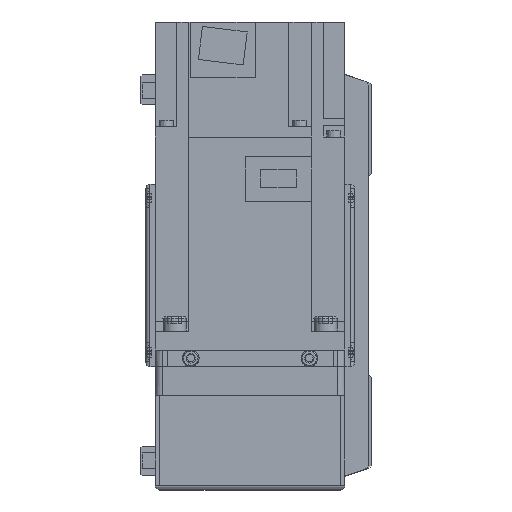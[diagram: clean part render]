
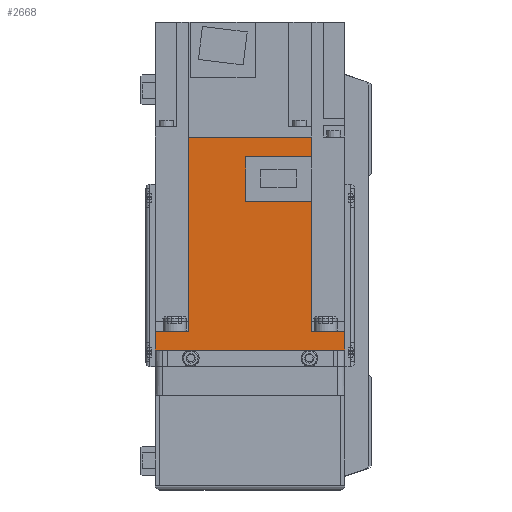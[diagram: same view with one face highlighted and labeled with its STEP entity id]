
A CAD part, left-side view. The second image highlights one B-rep face of the part: STEP entity #2668.
In plain terms, the highlighted planar face has unit normal (-1, 0, 0) as drawn and (1, 0, 0) by its records, which use the part's own axes.
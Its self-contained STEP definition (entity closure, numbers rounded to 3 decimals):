
#2668 = ADVANCED_FACE( '', ( #5926 ), #5927, .F. );
#5926 = FACE_OUTER_BOUND( '', #9730, .T. );
#5927 = PLANE( '', #9731 );
#9730 = EDGE_LOOP( '', ( #17199, #17200, #17201, #17202, #17203, #17204, #17205, #17206, #17207, #17208, #17209, #17210 ) );
#9731 = AXIS2_PLACEMENT_3D( '', #17211, #17212, #17213 );
#17199 = ORIENTED_EDGE( '', *, *, #23057, .F. );
#17200 = ORIENTED_EDGE( '', *, *, #23907, .F. );
#17201 = ORIENTED_EDGE( '', *, *, #22555, .F. );
#17202 = ORIENTED_EDGE( '', *, *, #21693, .T. );
#17203 = ORIENTED_EDGE( '', *, *, #23269, .F. );
#17204 = ORIENTED_EDGE( '', *, *, #24165, .T. );
#17205 = ORIENTED_EDGE( '', *, *, #24166, .T. );
#17206 = ORIENTED_EDGE( '', *, *, #23701, .F. );
#17207 = ORIENTED_EDGE( '', *, *, #23589, .F. );
#17208 = ORIENTED_EDGE( '', *, *, #23909, .F. );
#17209 = ORIENTED_EDGE( '', *, *, #23220, .F. );
#17210 = ORIENTED_EDGE( '', *, *, #24167, .F. );
#17211 = CARTESIAN_POINT( '', ( 40., 89.8, 40. ) );
#17212 = DIRECTION( '', ( -1., 0., 0. ) );
#17213 = DIRECTION( '', ( 0., 0., 1. ) );
#21693 = EDGE_CURVE( '', #25935, #25933, #25936, .T. );
#22555 = EDGE_CURVE( '', #25935, #27391, #27394, .T. );
#23057 = EDGE_CURVE( '', #28170, #28172, #28173, .T. );
#23220 = EDGE_CURVE( '', #28432, #28433, #28434, .T. );
#23269 = EDGE_CURVE( '', #28508, #25933, #28510, .T. );
#23589 = EDGE_CURVE( '', #28975, #28976, #28977, .T. );
#23701 = EDGE_CURVE( '', #28976, #29125, #29126, .T. );
#23907 = EDGE_CURVE( '', #27391, #28170, #29413, .T. );
#23909 = EDGE_CURVE( '', #28433, #28975, #29415, .T. );
#24165 = EDGE_CURVE( '', #28508, #29766, #29767, .T. );
#24166 = EDGE_CURVE( '', #29766, #29125, #29768, .T. );
#24167 = EDGE_CURVE( '', #28172, #28432, #29769, .T. );
#25933 = VERTEX_POINT( '', #32179 );
#25935 = VERTEX_POINT( '', #32182 );
#25936 = LINE( '', #32183, #32184 );
#27391 = VERTEX_POINT( '', #34363 );
#27394 = LINE( '', #34368, #34369 );
#28170 = VERTEX_POINT( '', #35486 );
#28172 = VERTEX_POINT( '', #35489 );
#28173 = LINE( '', #35490, #35491 );
#28432 = VERTEX_POINT( '', #35910 );
#28433 = VERTEX_POINT( '', #35911 );
#28434 = LINE( '', #35912, #35913 );
#28508 = VERTEX_POINT( '', #36021 );
#28510 = LINE( '', #36024, #36025 );
#28975 = VERTEX_POINT( '', #36823 );
#28976 = VERTEX_POINT( '', #36824 );
#28977 = LINE( '', #36825, #36826 );
#29125 = VERTEX_POINT( '', #37032 );
#29126 = LINE( '', #37033, #37034 );
#29413 = LINE( '', #37640, #37641 );
#29415 = LINE( '', #37644, #37645 );
#29766 = VERTEX_POINT( '', #38190 );
#29767 = LINE( '', #38191, #38192 );
#29768 = LINE( '', #38193, #38194 );
#29769 = LINE( '', #38195, #38196 );
#32179 = CARTESIAN_POINT( '', ( 40., 8., 25.95 ) );
#32182 = CARTESIAN_POINT( '', ( 40., 89.8, 25.95 ) );
#32183 = CARTESIAN_POINT( '', ( 40., 158., 25.95 ) );
#32184 = VECTOR( '', #40567, 1000. );
#34363 = CARTESIAN_POINT( '', ( 40., 89.8, -25.95 ) );
#34368 = CARTESIAN_POINT( '', ( 40., 89.8, 40. ) );
#34369 = VECTOR( '', #41696, 1000. );
#35486 = CARTESIAN_POINT( '', ( 40., 81.4, -25.95 ) );
#35489 = CARTESIAN_POINT( '', ( 40., 81.4, 1.8 ) );
#35490 = CARTESIAN_POINT( '', ( 40., 81.4, -26. ) );
#35491 = VECTOR( '', #42348, 1000. );
#35910 = CARTESIAN_POINT( '', ( 40., 62.8, 1.8 ) );
#35911 = CARTESIAN_POINT( '', ( 40., 62.8, -25.95 ) );
#35912 = CARTESIAN_POINT( '', ( 40., 62.8, 1.8 ) );
#35913 = VECTOR( '', #42543, 1000. );
#36021 = CARTESIAN_POINT( '', ( 40., 8., 40. ) );
#36024 = CARTESIAN_POINT( '', ( 40., 8., 40. ) );
#36025 = VECTOR( '', #42612, 1000. );
#36823 = CARTESIAN_POINT( '', ( 40., 8., -25.95 ) );
#36824 = CARTESIAN_POINT( '', ( 40., 8., -40. ) );
#36825 = CARTESIAN_POINT( '', ( 40., 8., 40. ) );
#36826 = VECTOR( '', #42964, 1000. );
#37032 = CARTESIAN_POINT( '', ( 40., 0., -40. ) );
#37033 = CARTESIAN_POINT( '', ( 40., 89.8, -40. ) );
#37034 = VECTOR( '', #43086, 1000. );
#37640 = CARTESIAN_POINT( '', ( 40., 158., -25.95 ) );
#37641 = VECTOR( '', #43320, 1000. );
#37644 = CARTESIAN_POINT( '', ( 40., 158., -25.95 ) );
#37645 = VECTOR( '', #43322, 1000. );
#38190 = CARTESIAN_POINT( '', ( 40., 0., 40. ) );
#38191 = CARTESIAN_POINT( '', ( 40., 89.8, 40. ) );
#38192 = VECTOR( '', #43605, 1000. );
#38193 = CARTESIAN_POINT( '', ( 40., 0., 40. ) );
#38194 = VECTOR( '', #43606, 1000. );
#38195 = CARTESIAN_POINT( '', ( 40., 81.4, 1.8 ) );
#38196 = VECTOR( '', #43607, 1000. );
#40567 = DIRECTION( '', ( 0., -1., 0. ) );
#41696 = DIRECTION( '', ( 0., 0., -1. ) );
#42348 = DIRECTION( '', ( 0., 0., 1. ) );
#42543 = DIRECTION( '', ( 0., 0., -1. ) );
#42612 = DIRECTION( '', ( 0., 0., -1. ) );
#42964 = DIRECTION( '', ( 0., 0., -1. ) );
#43086 = DIRECTION( '', ( 0., -1., 0. ) );
#43320 = DIRECTION( '', ( 0., -1., 0. ) );
#43322 = DIRECTION( '', ( 0., -1., 0. ) );
#43605 = DIRECTION( '', ( 0., -1., 0. ) );
#43606 = DIRECTION( '', ( 0., 0., -1. ) );
#43607 = DIRECTION( '', ( 0., -1., 0. ) );
